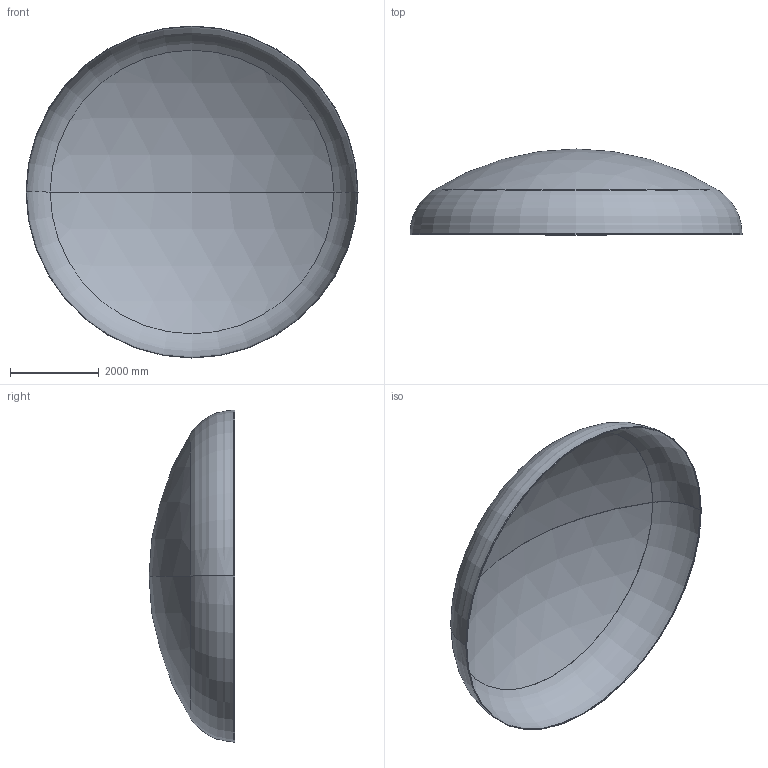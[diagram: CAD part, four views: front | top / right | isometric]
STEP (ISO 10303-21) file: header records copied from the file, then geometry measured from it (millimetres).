
FILE_DESCRIPTION (( 'STEP AP203' ), '1' );
FILE_NAME ('DIN 28013 Korbbogenform_-_Boden DIN 28013 - 7500 x 25 - I - s=8.step', '2016-07-04T10:51:04', ( '' ), ( '' ), 'SwSTEP 2.0', 'SolidWorks 2013', '' );
FILE_SCHEMA (( 'CONFIG_CONTROL_DESIGN' ));
Length unit declared in the file: millimetre
Products named in the file (1): DIN 28013 Korbbogenform_-_Boden DIN 28013 - 7500 x 25 - I - s=8
Bounding box: 7500 x 1936.48 x 7500 mm (x, y, z)
Volume: 493567575.8 mm3; surface area: 123580270.8 mm2
Topology: 1 solids, 1 shells, 13 faces, 24 edges, 14 vertices
Faces by surface type: torus 4, cylinder 4, sphere 4, plane 1
Entity records: 407 total; most frequent: DIRECTION 72, CARTESIAN_POINT 52, ORIENTED_EDGE 48, AXIS2_PLACEMENT_3D 34, EDGE_CURVE 24, CIRCLE 20, VERTEX_POINT 14, EDGE_LOOP 14
